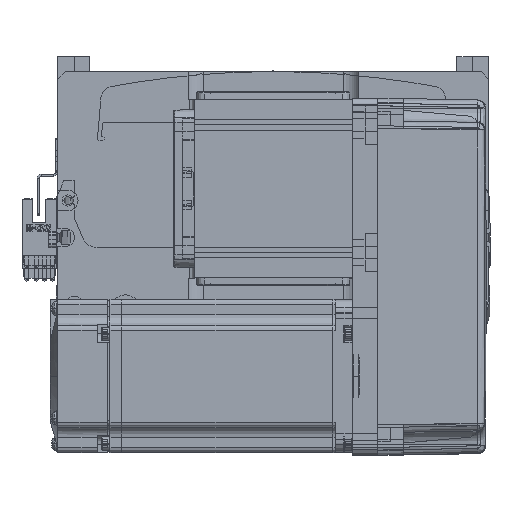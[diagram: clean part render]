
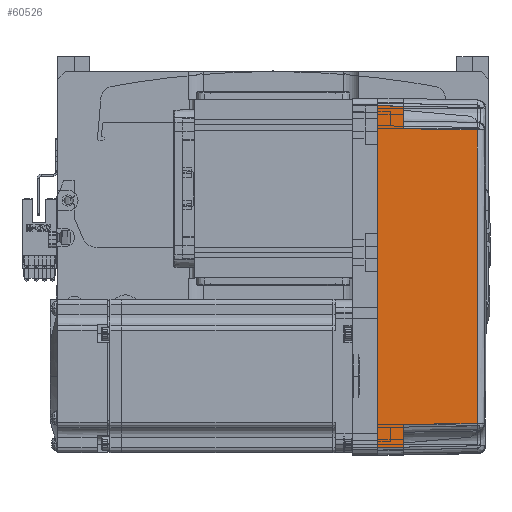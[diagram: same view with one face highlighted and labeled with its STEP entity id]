
A CAD part, top view. The second image highlights one B-rep face of the part: STEP entity #60526.
In plain terms, the highlighted planar face has unit normal (0.018, 0, 1) as drawn and (0, 1, 0.017) by its records, which use the part's own axes.
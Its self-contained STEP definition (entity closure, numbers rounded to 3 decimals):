
#1961 = CARTESIAN_POINT ( 'NONE',  ( 70., 35.825, 10. ) ) ;
#2414 = VECTOR ( 'NONE', #12294, 1000. ) ;
#5749 = VECTOR ( 'NONE', #55798, 1000. ) ;
#5807 = ORIENTED_EDGE ( 'NONE', *, *, #25149, .T. ) ;
#5822 = LINE ( 'NONE', #65626, #59830 ) ;
#6901 = DIRECTION ( 'NONE',  ( 0., -0.017, 1. ) ) ;
#9435 = VECTOR ( 'NONE', #33538, 1000. ) ;
#11365 = EDGE_CURVE ( 'NONE', #39076, #35269, #44646, .T. ) ;
#11516 = PLANE ( 'NONE',  #33909 ) ;
#12294 = DIRECTION ( 'NONE',  ( 1., 0., 0. ) ) ;
#13400 = VERTEX_POINT ( 'NONE', #41647 ) ;
#15383 = CARTESIAN_POINT ( 'NONE',  ( 66.826, 35.825, 10. ) ) ;
#16813 = EDGE_CURVE ( 'NONE', #54145, #47418, #25718, .T. ) ;
#17312 = CARTESIAN_POINT ( 'NONE',  ( 57.495, 35.32, 38.985 ) ) ;
#17933 = EDGE_LOOP ( 'NONE', ( #5807, #68300, #47744, #63337, #38858, #64512, #59523, #18452 ) ) ;
#18452 = ORIENTED_EDGE ( 'NONE', *, *, #16813, .F. ) ;
#18611 = CARTESIAN_POINT ( 'NONE',  ( -57.495, 35.32, 38.985 ) ) ;
#20320 = LINE ( 'NONE', #56026, #5749 ) ;
#22538 = CARTESIAN_POINT ( 'NONE',  ( 0., 36., 0. ) ) ;
#23525 = CARTESIAN_POINT ( 'NONE',  ( -57.495, 35.32, 38.985 ) ) ;
#24250 = EDGE_CURVE ( 'NONE', #36944, #39076, #29040, .T. ) ;
#25149 = EDGE_CURVE ( 'NONE', #54145, #36944, #68224, .T. ) ;
#25718 = LINE ( 'NONE', #22538, #9435 ) ;
#27808 = CARTESIAN_POINT ( 'NONE',  ( -58., 35.825, 10. ) ) ;
#29040 = LINE ( 'NONE', #1961, #2414 ) ;
#30082 = VECTOR ( 'NONE', #39921, 1000. ) ;
#30472 = CARTESIAN_POINT ( 'NONE',  ( 67.001, 36.001, -0.052 ) ) ;
#31317 = CARTESIAN_POINT ( 'NONE',  ( -67., 36., 0. ) ) ;
#33538 = DIRECTION ( 'NONE',  ( 1., 0., 0. ) ) ;
#33909 = AXIS2_PLACEMENT_3D ( 'NONE', #44046, #67001, #6901 ) ;
#35269 = VERTEX_POINT ( 'NONE', #18611 ) ;
#35715 = DIRECTION ( 'NONE',  ( -0.017, -0.017, 1. ) ) ;
#36944 = VERTEX_POINT ( 'NONE', #59804 ) ;
#38858 = ORIENTED_EDGE ( 'NONE', *, *, #57084, .T. ) ;
#38966 = EDGE_CURVE ( 'NONE', #53231, #67459, #20320, .T. ) ;
#39076 = VERTEX_POINT ( 'NONE', #27808 ) ;
#39921 = DIRECTION ( 'NONE',  ( 0.017, -0.017, 1. ) ) ;
#41647 = CARTESIAN_POINT ( 'NONE',  ( 57.495, 35.32, 38.985 ) ) ;
#44046 = CARTESIAN_POINT ( 'NONE',  ( 70., 36., 0. ) ) ;
#44646 = LINE ( 'NONE', #62231, #30082 ) ;
#46189 = DIRECTION ( 'NONE',  ( 0.017, -0.017, 1. ) ) ;
#47418 = VERTEX_POINT ( 'NONE', #53198 ) ;
#47744 = ORIENTED_EDGE ( 'NONE', *, *, #11365, .T. ) ;
#47901 = CARTESIAN_POINT ( 'NONE',  ( 58., 35.825, 10. ) ) ;
#48618 = DIRECTION ( 'NONE',  ( 0.017, 0.017, -1. ) ) ;
#50087 = CARTESIAN_POINT ( 'NONE',  ( -19.165, 35.316, 39.181 ) ) ;
#51446 = EDGE_CURVE ( 'NONE', #47418, #67459, #56894, .T. ) ;
#51454 = CARTESIAN_POINT ( 'NONE',  ( -67., 36., 0. ) ) ;
#53198 = CARTESIAN_POINT ( 'NONE',  ( 67., 36., 0. ) ) ;
#53231 = VERTEX_POINT ( 'NONE', #47901 ) ;
#54145 = VERTEX_POINT ( 'NONE', #31317 ) ;
#55798 = DIRECTION ( 'NONE',  ( 1., 0., 0. ) ) ;
#56026 = CARTESIAN_POINT ( 'NONE',  ( 70., 35.825, 10. ) ) ;
#56894 = LINE ( 'NONE', #30472, #68836 ) ;
#57084 = EDGE_CURVE ( 'NONE', #13400, #53231, #5822, .T. ) ;
#59523 = ORIENTED_EDGE ( 'NONE', *, *, #51446, .F. ) ;
#59804 = CARTESIAN_POINT ( 'NONE',  ( -66.826, 35.825, 10. ) ) ;
#59830 = VECTOR ( 'NONE', #48618, 1000. ) ;
#60526 = ADVANCED_FACE ( 'NONE', ( #67749 ), #11516, .T. ) ;
#61837 = CARTESIAN_POINT ( 'NONE',  ( 19.165, 35.316, 39.181 ) ) ;
#62231 = CARTESIAN_POINT ( 'NONE',  ( -58., 35.825, 10. ) ) ;
#63337 = ORIENTED_EDGE ( 'NONE', *, *, #66115, .T. ) ;
#64512 = ORIENTED_EDGE ( 'NONE', *, *, #38966, .T. ) ;
#65626 = CARTESIAN_POINT ( 'NONE',  ( 57.495, 35.32, 38.985 ) ) ;
#66115 = EDGE_CURVE ( 'NONE', #35269, #13400, #66456, .T. ) ;
#66456 = B_SPLINE_CURVE_WITH_KNOTS ( 'NONE', 3,
 ( #23525, #50087, #61837, #17312 ),
 .UNSPECIFIED., .F., .F.,
 ( 4, 4 ),
 ( 0., 1. ),
 .UNSPECIFIED. ) ;
#67001 = DIRECTION ( 'NONE',  ( 0., 1., 0.017 ) ) ;
#67459 = VERTEX_POINT ( 'NONE', #15383 ) ;
#67749 = FACE_OUTER_BOUND ( 'NONE', #17933, .T. ) ;
#68224 = LINE ( 'NONE', #51454, #69109 ) ;
#68300 = ORIENTED_EDGE ( 'NONE', *, *, #24250, .T. ) ;
#68836 = VECTOR ( 'NONE', #35715, 1000. ) ;
#69109 = VECTOR ( 'NONE', #46189, 1000. ) ;
